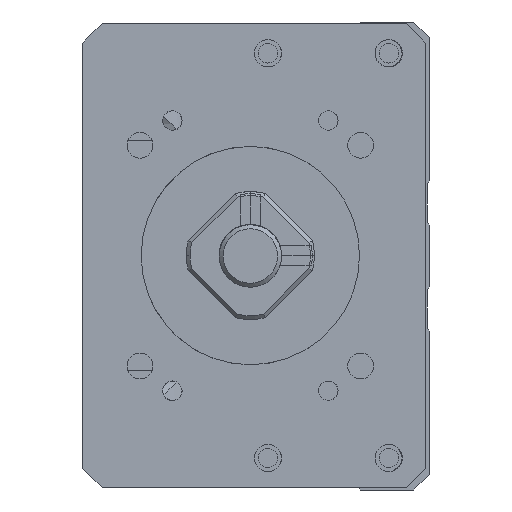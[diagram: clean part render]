
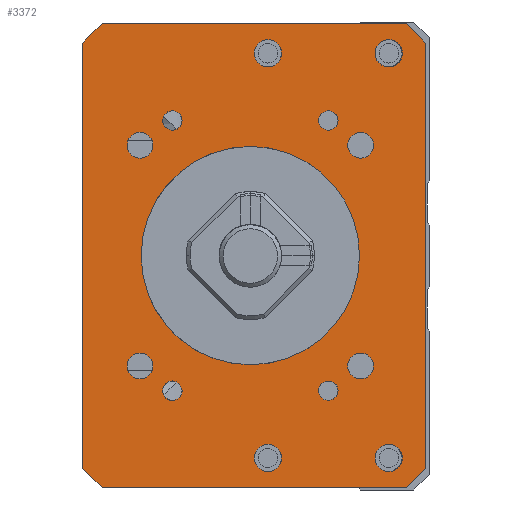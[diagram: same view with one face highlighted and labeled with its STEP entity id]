
A CAD part, left-side view. The second image highlights one B-rep face of the part: STEP entity #3372.
In plain terms, the highlighted planar face has unit normal (-1, 0, 0).
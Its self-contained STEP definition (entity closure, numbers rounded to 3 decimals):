
#226=CIRCLE('',#11403,14.);
#235=CIRCLE('',#11414,1.65);
#236=CIRCLE('',#11415,1.65);
#237=CIRCLE('',#11416,1.65);
#238=CIRCLE('',#11417,1.65);
#239=CIRCLE('',#11418,1.25);
#240=CIRCLE('',#11419,1.75);
#241=CIRCLE('',#11420,1.25);
#242=CIRCLE('',#11421,1.75);
#243=CIRCLE('',#11422,1.25);
#244=CIRCLE('',#11423,1.75);
#245=CIRCLE('',#11424,1.75);
#246=CIRCLE('',#11425,1.25);
#782=PLANE('',#11426);
#1675=LINE('',#15920,#2527);
#1677=LINE('',#15944,#2529);
#1678=LINE('',#15946,#2530);
#1679=LINE('',#15948,#2531);
#1680=LINE('',#15950,#2532);
#1681=LINE('',#15952,#2533);
#1682=LINE('',#15954,#2534);
#1683=LINE('',#15956,#2535);
#2527=VECTOR('',#12706,1.);
#2529=VECTOR('',#12730,1.);
#2530=VECTOR('',#12731,1.);
#2531=VECTOR('',#12732,1.);
#2532=VECTOR('',#12733,1.);
#2533=VECTOR('',#12734,1.);
#2534=VECTOR('',#12735,1.);
#2535=VECTOR('',#12736,1.);
#3372=ADVANCED_FACE('',(#4266,#4267,#4268,#4269,#4270,#4271,#4272,#4273,
#4274,#4275,#4276,#4277,#4278,#4279),#782,.F.);
#4266=FACE_BOUND('',#4807,.T.);
#4267=FACE_BOUND('',#4808,.T.);
#4268=FACE_BOUND('',#4809,.T.);
#4269=FACE_BOUND('',#4810,.T.);
#4270=FACE_BOUND('',#4811,.T.);
#4271=FACE_BOUND('',#4812,.T.);
#4272=FACE_BOUND('',#4813,.T.);
#4273=FACE_BOUND('',#4814,.T.);
#4274=FACE_BOUND('',#4815,.T.);
#4275=FACE_BOUND('',#4816,.T.);
#4276=FACE_BOUND('',#4817,.T.);
#4277=FACE_BOUND('',#4818,.T.);
#4278=FACE_BOUND('',#4819,.T.);
#4279=FACE_BOUND('',#4820,.T.);
#4807=EDGE_LOOP('',(#5920));
#4808=EDGE_LOOP('',(#5921));
#4809=EDGE_LOOP('',(#5922));
#4810=EDGE_LOOP('',(#5923));
#4811=EDGE_LOOP('',(#5924));
#4812=EDGE_LOOP('',(#5925));
#4813=EDGE_LOOP('',(#5926));
#4814=EDGE_LOOP('',(#5927));
#4815=EDGE_LOOP('',(#5928));
#4816=EDGE_LOOP('',(#5929,#5930,#5931,#5932,#5933,#5934,#5935,#5936));
#4817=EDGE_LOOP('',(#5937));
#4818=EDGE_LOOP('',(#5938));
#4819=EDGE_LOOP('',(#5939));
#4820=EDGE_LOOP('',(#5940));
#5920=ORIENTED_EDGE('',*,*,#9865,.F.);
#5921=ORIENTED_EDGE('',*,*,#9866,.F.);
#5922=ORIENTED_EDGE('',*,*,#9867,.F.);
#5923=ORIENTED_EDGE('',*,*,#9868,.F.);
#5924=ORIENTED_EDGE('',*,*,#9869,.F.);
#5925=ORIENTED_EDGE('',*,*,#9870,.T.);
#5926=ORIENTED_EDGE('',*,*,#9871,.F.);
#5927=ORIENTED_EDGE('',*,*,#9872,.F.);
#5928=ORIENTED_EDGE('',*,*,#9873,.F.);
#5929=ORIENTED_EDGE('',*,*,#9862,.T.);
#5930=ORIENTED_EDGE('',*,*,#9874,.T.);
#5931=ORIENTED_EDGE('',*,*,#9875,.F.);
#5932=ORIENTED_EDGE('',*,*,#9876,.T.);
#5933=ORIENTED_EDGE('',*,*,#9877,.F.);
#5934=ORIENTED_EDGE('',*,*,#9878,.T.);
#5935=ORIENTED_EDGE('',*,*,#9879,.T.);
#5936=ORIENTED_EDGE('',*,*,#9880,.T.);
#5937=ORIENTED_EDGE('',*,*,#9881,.F.);
#5938=ORIENTED_EDGE('',*,*,#9882,.F.);
#5939=ORIENTED_EDGE('',*,*,#9883,.F.);
#5940=ORIENTED_EDGE('',*,*,#9842,.F.);
#8756=VERTEX_POINT('',#15843);
#8776=VERTEX_POINT('',#15919);
#8777=VERTEX_POINT('',#15921);
#8779=VERTEX_POINT('',#15927);
#8780=VERTEX_POINT('',#15929);
#8781=VERTEX_POINT('',#15931);
#8782=VERTEX_POINT('',#15933);
#8783=VERTEX_POINT('',#15935);
#8784=VERTEX_POINT('',#15937);
#8785=VERTEX_POINT('',#15939);
#8786=VERTEX_POINT('',#15941);
#8787=VERTEX_POINT('',#15943);
#8788=VERTEX_POINT('',#15945);
#8789=VERTEX_POINT('',#15947);
#8790=VERTEX_POINT('',#15949);
#8791=VERTEX_POINT('',#15951);
#8792=VERTEX_POINT('',#15953);
#8793=VERTEX_POINT('',#15955);
#8794=VERTEX_POINT('',#15958);
#8795=VERTEX_POINT('',#15960);
#8796=VERTEX_POINT('',#15962);
#9842=EDGE_CURVE('',#8756,#8756,#226,.T.);
#9862=EDGE_CURVE('',#8777,#8776,#1675,.T.);
#9865=EDGE_CURVE('',#8779,#8779,#235,.T.);
#9866=EDGE_CURVE('',#8780,#8780,#236,.T.);
#9867=EDGE_CURVE('',#8781,#8781,#237,.T.);
#9868=EDGE_CURVE('',#8782,#8782,#238,.T.);
#9869=EDGE_CURVE('',#8783,#8783,#239,.T.);
#9870=EDGE_CURVE('',#8784,#8784,#240,.T.);
#9871=EDGE_CURVE('',#8785,#8785,#241,.T.);
#9872=EDGE_CURVE('',#8786,#8786,#242,.T.);
#9873=EDGE_CURVE('',#8787,#8787,#243,.T.);
#9874=EDGE_CURVE('',#8776,#8788,#1677,.T.);
#9875=EDGE_CURVE('',#8789,#8788,#1678,.T.);
#9876=EDGE_CURVE('',#8789,#8790,#1679,.T.);
#9877=EDGE_CURVE('',#8791,#8790,#1680,.T.);
#9878=EDGE_CURVE('',#8791,#8792,#1681,.T.);
#9879=EDGE_CURVE('',#8792,#8793,#1682,.T.);
#9880=EDGE_CURVE('',#8793,#8777,#1683,.T.);
#9881=EDGE_CURVE('',#8794,#8794,#244,.T.);
#9882=EDGE_CURVE('',#8795,#8795,#245,.T.);
#9883=EDGE_CURVE('',#8796,#8796,#246,.T.);
#11403=AXIS2_PLACEMENT_3D('',#15842,#12680,#12681);
#11414=AXIS2_PLACEMENT_3D('',#15926,#12712,#12713);
#11415=AXIS2_PLACEMENT_3D('',#15928,#12714,#12715);
#11416=AXIS2_PLACEMENT_3D('',#15930,#12716,#12717);
#11417=AXIS2_PLACEMENT_3D('',#15932,#12718,#12719);
#11418=AXIS2_PLACEMENT_3D('',#15934,#12720,#12721);
#11419=AXIS2_PLACEMENT_3D('',#15936,#12722,#12723);
#11420=AXIS2_PLACEMENT_3D('',#15938,#12724,#12725);
#11421=AXIS2_PLACEMENT_3D('',#15940,#12726,#12727);
#11422=AXIS2_PLACEMENT_3D('',#15942,#12728,#12729);
#11423=AXIS2_PLACEMENT_3D('',#15957,#12737,#12738);
#11424=AXIS2_PLACEMENT_3D('',#15959,#12739,#12740);
#11425=AXIS2_PLACEMENT_3D('',#15961,#12741,#12742);
#11426=AXIS2_PLACEMENT_3D('',#15963,#12743,#12744);
#12680=DIRECTION('',(-1.,0.,0.));
#12681=DIRECTION('',(0.,1.,0.));
#12706=DIRECTION('',(0.,0.,-1.));
#12712=DIRECTION('',(-1.,0.,0.));
#12713=DIRECTION('',(0.,0.,1.));
#12714=DIRECTION('',(-1.,0.,0.));
#12715=DIRECTION('',(0.,0.,1.));
#12716=DIRECTION('',(-1.,0.,0.));
#12717=DIRECTION('',(0.,0.,1.));
#12718=DIRECTION('',(-1.,0.,0.));
#12719=DIRECTION('',(0.,0.,1.));
#12720=DIRECTION('',(-1.,0.,0.));
#12721=DIRECTION('',(0.,1.,0.));
#12722=DIRECTION('',(1.,0.,0.));
#12723=DIRECTION('',(0.,0.,1.));
#12724=DIRECTION('',(-1.,0.,0.));
#12725=DIRECTION('',(0.,1.,0.));
#12726=DIRECTION('',(-1.,0.,0.));
#12727=DIRECTION('',(0.,0.,1.));
#12728=DIRECTION('',(-1.,0.,0.));
#12729=DIRECTION('',(0.,1.,0.));
#12730=DIRECTION('',(0.,-0.707,-0.707));
#12731=DIRECTION('',(0.,1.,0.));
#12732=DIRECTION('',(0.,-0.707,0.707));
#12733=DIRECTION('',(0.,0.,-1.));
#12734=DIRECTION('',(0.,0.707,0.707));
#12735=DIRECTION('',(0.,1.,0.));
#12736=DIRECTION('',(0.,0.707,-0.707));
#12737=DIRECTION('',(-1.,0.,0.));
#12738=DIRECTION('',(0.,0.,1.));
#12739=DIRECTION('',(-1.,0.,0.));
#12740=DIRECTION('',(0.,0.,1.));
#12741=DIRECTION('',(-1.,0.,0.));
#12742=DIRECTION('',(0.,1.,0.));
#12743=DIRECTION('',(1.,0.,0.));
#12744=DIRECTION('',(0.,1.,0.));
#15842=CARTESIAN_POINT('',(-211.,0.,0.));
#15843=CARTESIAN_POINT('',(-211.,14.,0.));
#15919=CARTESIAN_POINT('',(-211.,21.499,-27.25));
#15920=CARTESIAN_POINT('',(-211.,21.499,29.75));
#15921=CARTESIAN_POINT('',(-211.,21.499,27.25));
#15926=CARTESIAN_POINT('',(-211.,14.142,14.142));
#15927=CARTESIAN_POINT('',(-211.,14.142,15.792));
#15928=CARTESIAN_POINT('',(-211.,-14.142,14.142));
#15929=CARTESIAN_POINT('',(-211.,-14.142,15.792));
#15930=CARTESIAN_POINT('',(-211.,14.142,-14.142));
#15931=CARTESIAN_POINT('',(-211.,14.142,-12.492));
#15932=CARTESIAN_POINT('',(-211.,-14.142,-14.142));
#15933=CARTESIAN_POINT('',(-211.,-14.142,-12.492));
#15934=CARTESIAN_POINT('',(-211.,-10.,-17.321));
#15935=CARTESIAN_POINT('',(-211.,-8.75,-17.321));
#15936=CARTESIAN_POINT('',(-211.,-2.25,-25.936));
#15937=CARTESIAN_POINT('',(-211.,-2.25,-24.186));
#15938=CARTESIAN_POINT('',(-211.,10.,17.321));
#15939=CARTESIAN_POINT('',(-211.,11.25,17.321));
#15940=CARTESIAN_POINT('',(-211.,-2.25,25.936));
#15941=CARTESIAN_POINT('',(-211.,-2.25,27.686));
#15942=CARTESIAN_POINT('',(-211.,10.,-17.321));
#15943=CARTESIAN_POINT('',(-211.,11.25,-17.321));
#15944=CARTESIAN_POINT('',(-211.,18.999,-29.75));
#15945=CARTESIAN_POINT('',(-211.,18.999,-29.75));
#15946=CARTESIAN_POINT('',(-211.,-22.501,-29.75));
#15947=CARTESIAN_POINT('',(-211.,-20.001,-29.75));
#15948=CARTESIAN_POINT('',(-211.,-22.501,-27.25));
#15949=CARTESIAN_POINT('',(-211.,-22.501,-27.25));
#15950=CARTESIAN_POINT('',(-211.,-22.501,29.75));
#15951=CARTESIAN_POINT('',(-211.,-22.501,27.25));
#15952=CARTESIAN_POINT('',(-211.,-22.501,27.25));
#15953=CARTESIAN_POINT('',(-211.,-20.001,29.75));
#15954=CARTESIAN_POINT('',(-211.,-22.501,29.75));
#15955=CARTESIAN_POINT('',(-211.,18.999,29.75));
#15956=CARTESIAN_POINT('',(-211.,18.999,29.75));
#15957=CARTESIAN_POINT('',(-211.,-17.75,25.936));
#15958=CARTESIAN_POINT('',(-211.,-17.75,27.686));
#15959=CARTESIAN_POINT('',(-211.,-17.75,-25.936));
#15960=CARTESIAN_POINT('',(-211.,-17.75,-24.186));
#15961=CARTESIAN_POINT('',(-211.,-10.,17.321));
#15962=CARTESIAN_POINT('',(-211.,-8.75,17.321));
#15963=CARTESIAN_POINT('',(-211.,-22.501,29.75));
